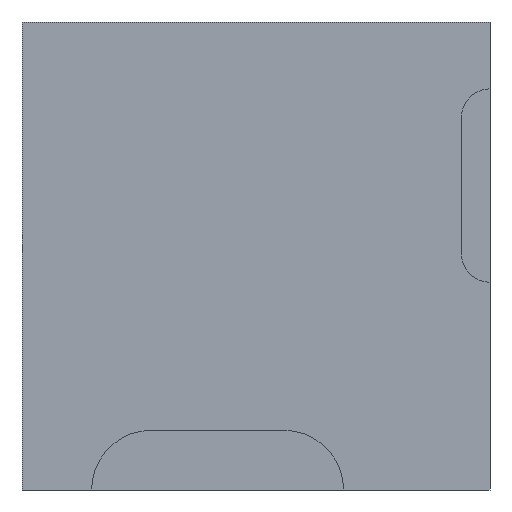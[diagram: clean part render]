
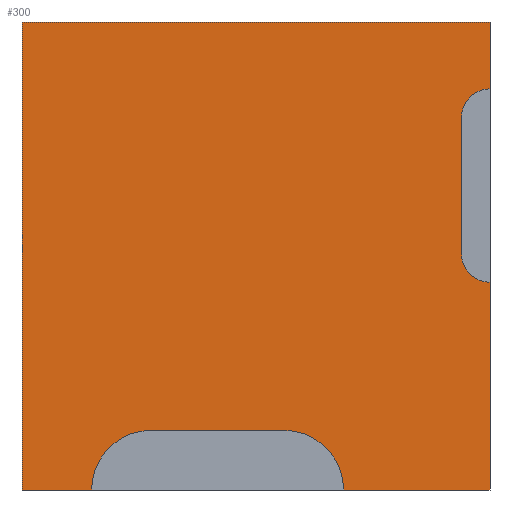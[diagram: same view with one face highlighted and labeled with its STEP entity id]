
A CAD part, left-side view. The second image highlights one B-rep face of the part: STEP entity #300.
In plain terms, the highlighted planar face has unit normal (-1, 0, 0).
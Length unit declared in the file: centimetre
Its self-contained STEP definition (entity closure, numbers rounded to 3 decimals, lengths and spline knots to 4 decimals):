
#8 = CARTESIAN_POINT ( 'NONE',  ( 0., 0., 795.951 ) ) ;
#9 = CARTESIAN_POINT ( 'NONE',  ( 0., 1000., 0. ) ) ;
#26 = DIRECTION ( 'NONE',  ( 0., 1., 0. ) ) ;
#30 = ORIENTED_EDGE ( 'NONE', *, *, #470, .F. ) ;
#34 = LINE ( 'NONE', #381, #237 ) ;
#43 = CARTESIAN_POINT ( 'NONE',  ( 0., 1000., 1000. ) ) ;
#44 = ORIENTED_EDGE ( 'NONE', *, *, #588, .F. ) ;
#51 = DIRECTION ( 'NONE',  ( 0., -1., 0. ) ) ;
#54 = LINE ( 'NONE', #339, #207 ) ;
#56 = CARTESIAN_POINT ( 'NONE',  ( 0., 0., 443.8724 ) ) ;
#61 = EDGE_CURVE ( 'NONE', #229, #160, #205, .T. ) ;
#64 = DIRECTION ( 'NONE',  ( 0., 0., -1. ) ) ;
#79 = CIRCLE ( 'NONE', #569, 127.5575 ) ;
#84 = ORIENTED_EDGE ( 'NONE', *, *, #520, .F. ) ;
#85 = CARTESIAN_POINT ( 'NONE',  ( 0., 1000., 1000. ) ) ;
#99 = VERTEX_POINT ( 'NONE', #198 ) ;
#100 = EDGE_CURVE ( 'NONE', #151, #353, #496, .T. ) ;
#104 = ORIENTED_EDGE ( 'NONE', *, *, #100, .F. ) ;
#108 = FACE_OUTER_BOUND ( 'NONE', #178, .T. ) ;
#109 = CARTESIAN_POINT ( 'NONE',  ( 0., 0., 857.1468 ) ) ;
#111 = DIRECTION ( 'NONE',  ( 0., 0., 1. ) ) ;
#112 = ORIENTED_EDGE ( 'NONE', *, *, #333, .T. ) ;
#121 = DIRECTION ( 'NONE',  ( 0., 0., -1. ) ) ;
#125 = VERTEX_POINT ( 'NONE', #156 ) ;
#139 = CARTESIAN_POINT ( 'NONE',  ( 0., 312.8602, 0. ) ) ;
#142 = AXIS2_PLACEMENT_3D ( 'NONE', #43, #554, #571 ) ;
#147 = VERTEX_POINT ( 'NONE', #109 ) ;
#151 = VERTEX_POINT ( 'NONE', #476 ) ;
#155 = CARTESIAN_POINT ( 'NONE',  ( 0., 0., 1000. ) ) ;
#156 = CARTESIAN_POINT ( 'NONE',  ( 0., 0., 1000. ) ) ;
#160 = VERTEX_POINT ( 'NONE', #247 ) ;
#161 = EDGE_CURVE ( 'NONE', #268, #565, #431, .T. ) ;
#162 = DIRECTION ( 'NONE',  ( -1., 0., 0. ) ) ;
#173 = ORIENTED_EDGE ( 'NONE', *, *, #367, .F. ) ;
#178 = EDGE_LOOP ( 'NONE', ( #44, #231, #363, #84, #104, #310, #30, #597, #595, #510, #112, #173 ) ) ;
#198 = CARTESIAN_POINT ( 'NONE',  ( 0., 723.7076, 127.5575 ) ) ;
#201 = EDGE_CURVE ( 'NONE', #600, #151, #34, .T. ) ;
#205 = LINE ( 'NONE', #338, #408 ) ;
#207 = VECTOR ( 'NONE', #51, 100. ) ;
#227 = VECTOR ( 'NONE', #391, 100. ) ;
#229 = VERTEX_POINT ( 'NONE', #85 ) ;
#231 = ORIENTED_EDGE ( 'NONE', *, *, #289, .F. ) ;
#236 = AXIS2_PLACEMENT_3D ( 'NONE', #350, #340, #111 ) ;
#237 = VECTOR ( 'NONE', #416, 100. ) ;
#247 = CARTESIAN_POINT ( 'NONE',  ( 0., 1000., 0. ) ) ;
#248 = CIRCLE ( 'NONE', #603, 127.5575 ) ;
#268 = VERTEX_POINT ( 'NONE', #139 ) ;
#269 = EDGE_CURVE ( 'NONE', #229, #125, #319, .T. ) ;
#271 = CARTESIAN_POINT ( 'NONE',  ( 0., 61.1957, 795.951 ) ) ;
#289 = EDGE_CURVE ( 'NONE', #268, #591, #248, .T. ) ;
#295 = VECTOR ( 'NONE', #26, 100. ) ;
#299 = CARTESIAN_POINT ( 'NONE',  ( 0., 0., 1000. ) ) ;
#300 = ADVANCED_FACE ( 'NONE', ( #108 ), #509, .F. ) ;
#310 = ORIENTED_EDGE ( 'NONE', *, *, #201, .F. ) ;
#312 = EDGE_CURVE ( 'NONE', #125, #147, #567, .T. ) ;
#319 = LINE ( 'NONE', #506, #527 ) ;
#325 = DIRECTION ( 'NONE',  ( -1., 0., 0. ) ) ;
#326 = VERTEX_POINT ( 'NONE', #337 ) ;
#333 = EDGE_CURVE ( 'NONE', #160, #326, #54, .T. ) ;
#337 = CARTESIAN_POINT ( 'NONE',  ( 0., 851.2651, 0. ) ) ;
#338 = CARTESIAN_POINT ( 'NONE',  ( 0., 1000., 1000. ) ) ;
#339 = CARTESIAN_POINT ( 'NONE',  ( 0., 1000., 0. ) ) ;
#340 = DIRECTION ( 'NONE',  ( -1., 0., 0. ) ) ;
#341 = DIRECTION ( 'NONE',  ( 0., 0., 1. ) ) ;
#350 = CARTESIAN_POINT ( 'NONE',  ( 0., 0., 505.0681 ) ) ;
#353 = VERTEX_POINT ( 'NONE', #56 ) ;
#363 = ORIENTED_EDGE ( 'NONE', *, *, #161, .T. ) ;
#367 = EDGE_CURVE ( 'NONE', #99, #326, #79, .T. ) ;
#368 = LINE ( 'NONE', #501, #295 ) ;
#379 = DIRECTION ( 'NONE',  ( -1., 0., 0. ) ) ;
#381 = CARTESIAN_POINT ( 'NONE',  ( 0., 61.1957, 795.951 ) ) ;
#388 = VECTOR ( 'NONE', #121, 100. ) ;
#391 = DIRECTION ( 'NONE',  ( 0., -1., 0. ) ) ;
#396 = CIRCLE ( 'NONE', #478, 61.1957 ) ;
#408 = VECTOR ( 'NONE', #64, 100. ) ;
#412 = CARTESIAN_POINT ( 'NONE',  ( 0., 440.4177, 127.5575 ) ) ;
#416 = DIRECTION ( 'NONE',  ( 0., 0., -1. ) ) ;
#417 = CARTESIAN_POINT ( 'NONE',  ( 0., 723.7076, 0. ) ) ;
#431 = LINE ( 'NONE', #9, #227 ) ;
#467 = DIRECTION ( 'NONE',  ( 0., 0., -1. ) ) ;
#470 = EDGE_CURVE ( 'NONE', #147, #600, #396, .T. ) ;
#472 = CARTESIAN_POINT ( 'NONE',  ( 0., 440.4177, 0. ) ) ;
#475 = DIRECTION ( 'NONE',  ( 0., 0., -1. ) ) ;
#476 = CARTESIAN_POINT ( 'NONE',  ( 0., 61.1957, 505.0681 ) ) ;
#477 = VECTOR ( 'NONE', #467, 100. ) ;
#478 = AXIS2_PLACEMENT_3D ( 'NONE', #8, #162, #341 ) ;
#496 = CIRCLE ( 'NONE', #236, 61.1957 ) ;
#501 = CARTESIAN_POINT ( 'NONE',  ( 0., 723.7076, 127.5575 ) ) ;
#506 = CARTESIAN_POINT ( 'NONE',  ( 0., 1000., 1000. ) ) ;
#509 = PLANE ( 'NONE',  #142 ) ;
#510 = ORIENTED_EDGE ( 'NONE', *, *, #61, .T. ) ;
#520 = EDGE_CURVE ( 'NONE', #353, #565, #530, .T. ) ;
#527 = VECTOR ( 'NONE', #556, 100. ) ;
#530 = LINE ( 'NONE', #299, #388 ) ;
#554 = DIRECTION ( 'NONE',  ( 1., 0., 0. ) ) ;
#556 = DIRECTION ( 'NONE',  ( 0., -1., 0. ) ) ;
#560 = DIRECTION ( 'NONE',  ( 0., 0., -1. ) ) ;
#565 = VERTEX_POINT ( 'NONE', #598 ) ;
#567 = LINE ( 'NONE', #155, #477 ) ;
#569 = AXIS2_PLACEMENT_3D ( 'NONE', #417, #379, #560 ) ;
#571 = DIRECTION ( 'NONE',  ( 0., 0., -1. ) ) ;
#588 = EDGE_CURVE ( 'NONE', #591, #99, #368, .T. ) ;
#591 = VERTEX_POINT ( 'NONE', #412 ) ;
#595 = ORIENTED_EDGE ( 'NONE', *, *, #269, .F. ) ;
#597 = ORIENTED_EDGE ( 'NONE', *, *, #312, .F. ) ;
#598 = CARTESIAN_POINT ( 'NONE',  ( 0., 0., 0. ) ) ;
#600 = VERTEX_POINT ( 'NONE', #271 ) ;
#603 = AXIS2_PLACEMENT_3D ( 'NONE', #472, #325, #475 ) ;
